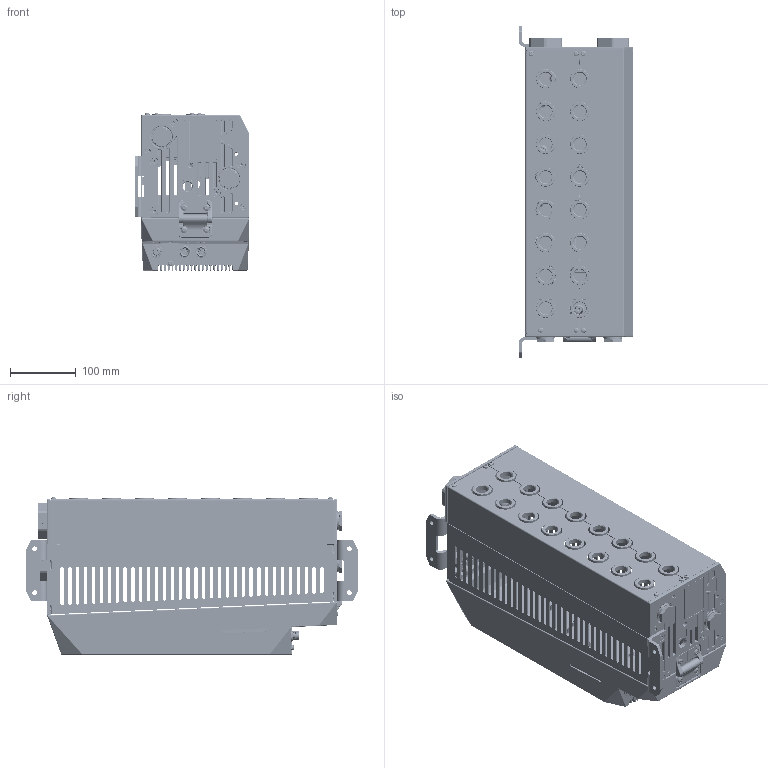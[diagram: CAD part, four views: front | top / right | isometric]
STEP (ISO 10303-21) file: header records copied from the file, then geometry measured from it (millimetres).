
FILE_DESCRIPTION (( 'STEP AP214' ), '1' );
FILE_NAME ('HB-FX1XXR61-8.STEP', '2026-03-02T08:52:11', ( '' ), ( '' ), 'SwSTEP 2.0', 'SolidWorks 2023', '' );
FILE_SCHEMA (( 'AUTOMOTIVE_DESIGN' ));
Length unit declared in the file: millimetre
Products named in the file (21): Kopie von K8534-Hülle Teil2^K8534-Hülle kompl_8-Fach HB-Therm; Kopie von Kopie von 29718-X^Kopie von K8534-Hülle Teil3_K8534-Hülle kompl_01-mit Beschriftung; Kopie von 28862^Kopie von K8534-Hülle Teil2_K8534-Hülle kompl_M5x12; Kopie von 29734-X^Kopie von K8534-Hülle Teil3_K8534-Hülle kompl_00; Kopie von 28706^Kopie von K8534-Hülle Teil2_K8534-Hülle kompl_180°; Kopie von 29720-X^Kopie von K8534-Hülle Teil3_K8534-Hülle kompl_00; KX508-2_2^Kopie von 28706_Kopie von K8534-Hülle Teil2_K8534-Hülle kompl; Kopie von K8534-Hülle RECHTS^Kopie von K8534-Hülle Teil3_K8534-Hülle kompl_8-FACH-RECHTS; Kopie von 29715-X^Kopie von K8534-Hülle Teil2_K8534-Hülle kompl_29715-1; HB-FX1XXR61-8; KX508-2_1^Kopie von 28706_Kopie von K8534-Hülle Teil2_K8534-Hülle kompl; Kopie von K8534-Hülle Teil3^K8534-Hülle kompl_8-FACH-RECHTS HB-Therm; Kopie von Kopie von 24568^Kopie von K8534-Hülle Teil3_K8534-Hülle kompl_00; Kopie von 29827^Kopie von K8534-Hülle Teil2_K8534-Hülle kompl; Kopie von Kopie von 29730^Kopie von K8534-Hülle Teil2_K8534-Hülle kompl_00; Kopie von 29733-X^Kopie von K8534-Hülle Teil2_K8534-Hülle kompl; Kopie von 29730^Kopie von K8534-Hülle Teil3_K8534-Hülle kompl_00; Kopie von 29719-X^Kopie von K8534-Hülle Teil3_K8534-Hülle kompl_01-mit Beschriftung; Kopie (2) von B3061620^Kopie von K8534-Hülle Teil2_K8534-Hülle kompl_M4x12; Kopie von 29714^Kopie von K8534-Hülle Teil2_K8534-Hülle kompl; KX508-2_3^Kopie von 28706_Kopie von K8534-Hülle Teil2_K8534-Hülle kompl
Assembly tree (30 placements, depth 4):
  HB-FX1XXR61-8
    Kopie von K8534-Hülle Teil3^K8534-Hülle kompl_8-FACH-RECHTS HB-Therm
      Kopie von 29734-X^Kopie von K8534-Hülle Teil3_K8534-Hülle kompl_00  x2
      Kopie von 29730^Kopie von K8534-Hülle Teil3_K8534-Hülle kompl_00  x4
      Kopie von K8534-Hülle RECHTS^Kopie von K8534-Hülle Teil3_K8534-Hülle kompl_8-FACH-RECHTS
      Kopie von Kopie von 29718-X^Kopie von K8534-Hülle Teil3_K8534-Hülle kompl_01-mit Beschriftung
      Kopie von 29719-X^Kopie von K8534-Hülle Teil3_K8534-Hülle kompl_01-mit Beschriftung
      Kopie von 29720-X^Kopie von K8534-Hülle Teil3_K8534-Hülle kompl_00
      Kopie von Kopie von 24568^Kopie von K8534-Hülle Teil3_K8534-Hülle kompl_00  x2
    Kopie von K8534-Hülle Teil2^K8534-Hülle kompl_8-Fach HB-Therm
      Kopie von 29715-X^Kopie von K8534-Hülle Teil2_K8534-Hülle kompl_29715-1
      Kopie von 29827^Kopie von K8534-Hülle Teil2_K8534-Hülle kompl  x2
      Kopie von 29714^Kopie von K8534-Hülle Teil2_K8534-Hülle kompl
      Kopie von 28862^Kopie von K8534-Hülle Teil2_K8534-Hülle kompl_M5x12  x4
      Kopie von 28706^Kopie von K8534-Hülle Teil2_K8534-Hülle kompl_180°
        KX508-2_1^Kopie von 28706_Kopie von K8534-Hülle Teil2_K8534-Hülle kompl
        KX508-2_2^Kopie von 28706_Kopie von K8534-Hülle Teil2_K8534-Hülle kompl
        KX508-2_3^Kopie von 28706_Kopie von K8534-Hülle Teil2_K8534-Hülle kompl
      Kopie von Kopie von 29730^Kopie von K8534-Hülle Teil2_K8534-Hülle kompl_00  x2
      Kopie von 29733-X^Kopie von K8534-Hülle Teil2_K8534-Hülle kompl
      Kopie (2) von B3061620^Kopie von K8534-Hülle Teil2_K8534-Hülle kompl_M4x12
Bounding box: 175 x 506 x 239.82 mm (x, y, z)
Volume: 1603897 mm3; surface area: 1045900.8 mm2
Topology: 105 solids, 106 shells, 7669 faces, 18753 edges, 11426 vertices
Faces by surface type: plane 2534, cylinder 2311, bspline 1059, cone 748, torus 743, sphere 274
Full cylindrical faces by diameter (mm): 2.5 x22, 3.3 x24, 3.6 x1, 4 x14, 4.2 x5, 4.5 x6, 4.6 x1, 4.9 x6, 5 x36, 5.2 x4, 6 x14, 6.6 x12, 6.8 x2, 7 x18, 7.8 x2, 8.3 x1, 8.4 x4, 9.4 x1, 10 x1, 10.2 x1, 10.3 x1, 10.55 x1, 10.8 x2, 12 x26, 12.1 x10, 14.5 x3, 18.4 x2, 19 x19, 20.96 x2, 26.6 x2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
Entity records: 331174 total; most frequent: CARTESIAN_POINT 100670, ORIENTED_EDGE 34198, DIRECTION 32802, EDGE_CURVE 17099, AXIS2_PLACEMENT_3D 12556, VERTEX_POINT 10793, EDGE_LOOP 8748, FACE_OUTER_BOUND 7764
